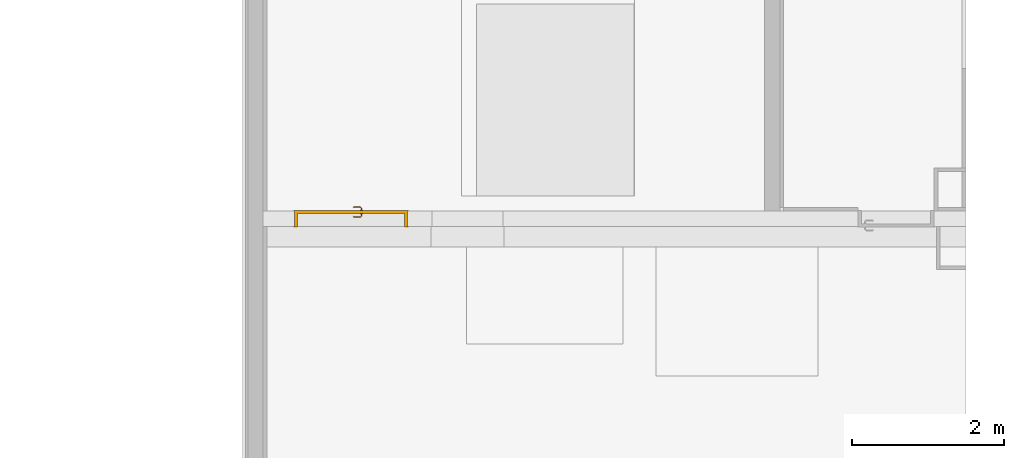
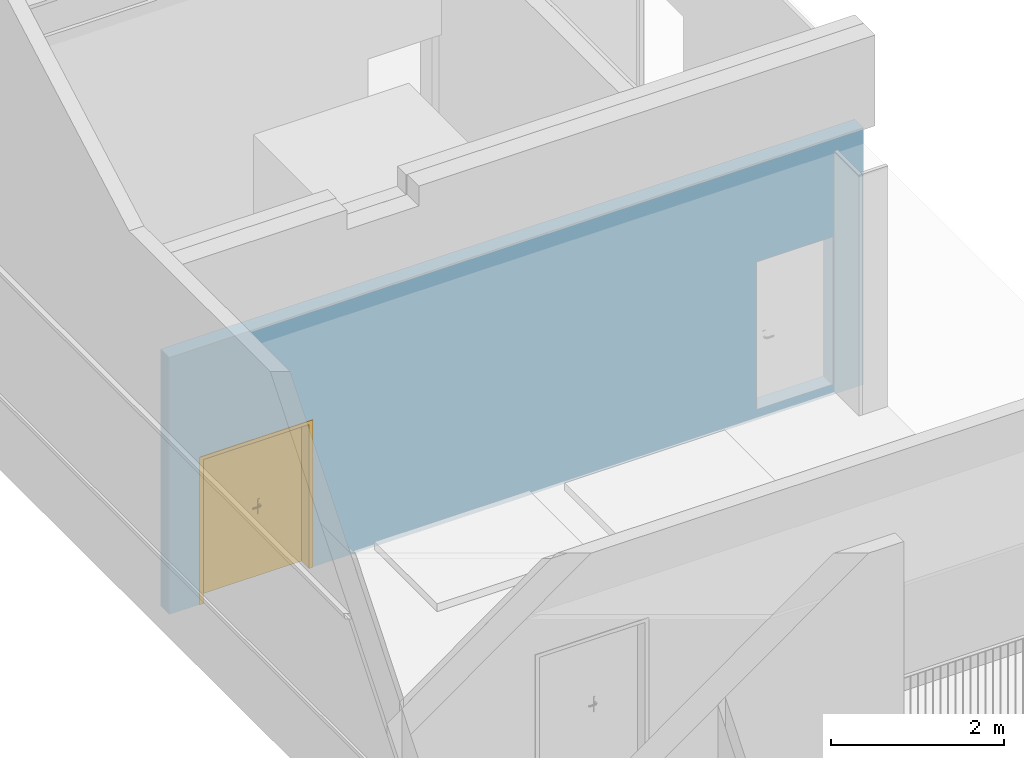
# One storey, part 27 of 44: 1 door, 2 openings, plus 1 element that does not belong to this part.
"""IFC2X3 building model written with IfcOpenShell, lengths in centimetres."""

from ifc_helpers import new_model, entity, si_unit, converted_unit, derived_unit, direction, frame, frame_2d, origin, place, context, subcontext, project, spatial, rectangle, extrude, faceted_brep, source, transform, mapped, material, material_list, layer, layer_set, layer_usage, type_object, type_shapes, element, fill, save


model = new_model("IFC2X3")

# Units and contexts
model_context = context("Model", 3, precision=0.001, world=origin(), true_north=direction((6.12303176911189e-17, 1.0)))
body_context = subcontext(model_context, "Body", "Model", "MODEL_VIEW")
ifc_project = project(units=[si_unit("LENGTHUNIT", "METRE", prefix="CENTI"), si_unit("AREAUNIT", "SQUARE_METRE"), si_unit("VOLUMEUNIT", "CUBIC_METRE"), converted_unit("PLANEANGLEUNIT", "DEGREE", entity("IfcRatioMeasure", 0.0174532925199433), si_unit("PLANEANGLEUNIT", "RADIAN"), dimensions=[0, 0, 0, 0, 0, 0, 0]), si_unit("MASSUNIT", "GRAM", prefix="KILO"), si_unit("TIMEUNIT", "SECOND"), si_unit("FREQUENCYUNIT", "HERTZ"), si_unit("THERMODYNAMICTEMPERATUREUNIT", "DEGREE_CELSIUS"), derived_unit("THERMALTRANSMITTANCEUNIT", [(si_unit("MASSUNIT", "GRAM", prefix="KILO"), 1), (si_unit("THERMODYNAMICTEMPERATUREUNIT", "KELVIN"), -1), (si_unit("TIMEUNIT", "SECOND"), -3)]), derived_unit("VOLUMETRICFLOWRATEUNIT", [(si_unit("LENGTHUNIT", "METRE"), 3), (si_unit("TIMEUNIT", "SECOND"), -1)]), si_unit("ELECTRICCURRENTUNIT", "AMPERE"), si_unit("ELECTRICVOLTAGEUNIT", "VOLT"), si_unit("POWERUNIT", "WATT"), si_unit("FORCEUNIT", "NEWTON", prefix="KILO"), si_unit("ILLUMINANCEUNIT", "LUX"), si_unit("LUMINOUSFLUXUNIT", "LUMEN"), si_unit("LUMINOUSINTENSITYUNIT", "CANDELA"), derived_unit("USERDEFINED", [(si_unit("MASSUNIT", "GRAM", prefix="KILO"), -1), (si_unit("LENGTHUNIT", "METRE"), -2), (si_unit("TIMEUNIT", "SECOND"), 3), (si_unit("LUMINOUSFLUXUNIT", "LUMEN"), 1)]), derived_unit("LINEARVELOCITYUNIT", [(si_unit("LENGTHUNIT", "METRE"), 1), (si_unit("TIMEUNIT", "SECOND"), -1)]), si_unit("PRESSUREUNIT", "PASCAL"), derived_unit("USERDEFINED", [(si_unit("LENGTHUNIT", "METRE"), -2), (si_unit("MASSUNIT", "GRAM", prefix="KILO"), 1), (si_unit("TIMEUNIT", "SECOND"), -2)])], contexts=[model_context])

# Site, building, storey
site_placement = place(None, frame((8.62739174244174, -249.285249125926, 0.0)))
site = spatial("IfcSite", under=ifc_project, at=site_placement, Name="Default", CompositionType="ELEMENT")
building_placement = place(site_placement, origin())
building = spatial("IfcBuilding", under=site, at=building_placement, CompositionType="ELEMENT")
storey_placement = place(building_placement, frame((0.0, 0.0, 343.0)))
storey = spatial("IfcBuildingStorey", under=building, at=storey_placement, Name="R+1", CompositionType="ELEMENT", Elevation=343.0)

# Wall, openings, door
ifc_material_1 = material(Name="Béton, coulé sur place, gris")
ifc_layer = layer(ifc_material_1, 20.0)
ifc_layer_set = layer_set([ifc_layer], Name="Mur de base:BET 20")
ifc_layer_usage = layer_usage(ifc_layer_set, "AXIS2", "NEGATIVE", 10.0)
wall_type = type_object("IfcWallType", Name="Mur de base:BET 20", PredefinedType="STANDARD", material=ifc_layer_set)
wall_placement = place(storey_placement, frame((3053.90482780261, 5584.9802081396, 0.0)))
wall = element("IfcWallStandardCase", 1, at=wall_placement, inside=storey, type_object=wall_type, material=ifc_layer_usage, Name="Mur de base:BET 20", ObjectType="Mur de base:BET 20", context=body_context, shape_type="SweptSolid", body=[
    extrude(rectangle(XDim=925.000000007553, YDim=20.0000000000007, at=frame_2d((462.500000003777, 4.35207425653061e-14), x_axis=(-1.0, 0.0))), origin(), (0.0, 0.0, 1.0), 362.0),
])
opening_1_placement = place(wall_placement, frame((40.9999881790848, -10.0, 0.0)))
opening_1 = element("IfcOpeningElement", 2, at=opening_1_placement, cuts=wall, Name="Tierce(R)_bois_mu:143 x 204 cm:1", ObjectType="Opening", context=body_context, shape_type="SweptSolid", body=[
    extrude(rectangle(XDim=206.999999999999, YDim=149.0, at=frame_2d((103.499999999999, 74.4999999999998), x_axis=(1.0, 0.0))), frame((0.0, 0.0, 0.0), z_axis=(0.0, 1.0, 0.0), x_axis=(0.0, 0.0, 1.0)), (0.0, 0.0, 1.0), 20.0),
])
opening_2_placement = place(wall_placement, frame((883.0, 10.0, 15.0)))
element("IfcOpeningElement", 3, at=opening_2_placement, cuts=wall, Name="Simple(R)_bois_mu:93 x 204 cm:1", ObjectType="Opening", context=body_context, shape_type="SweptSolid", body=[
    extrude(rectangle(XDim=207.499999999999, YDim=99.9999999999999, at=frame_2d((103.75, 50.0), x_axis=(1.0, 0.0))), frame((0.0, 0.0, 0.0), z_axis=(0.0, -1.0, 0.0), x_axis=(0.0, 0.0, 1.0)), (0.0, 0.0, 1.0), 20.0),
])
ifc_material_2 = material(Name="Aluminium-Dorma Metal-Anodized Silver")
ifc_material_3 = material(Name="Porte - Cadre")
ifc_material_4 = material(Name="Porte - Panneau")
ifc_material_list_1 = material_list([ifc_material_2, ifc_material_3, ifc_material_4])
ifc_material_list_2 = material_list([ifc_material_2, ifc_material_3, ifc_material_4])
door_style = type_object("IfcDoorStyle", Name="143 x 204 cm", ConstructionType="NOTDEFINED", OperationType="NOTDEFINED", ParameterTakesPrecedence=False, Sizeable=False, material=ifc_material_list_2)
shared_shape = source(origin(), body_context, "Body", "Brep", [
    faceted_brep([(60.2974701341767, 3.69999999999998, 100.778044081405), (59.8999999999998, 3.69999999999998, 100.699999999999), (59.8999999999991, 3.69999999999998, 99.2999999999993), (60.2974701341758, 3.69999999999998, 99.2219559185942), (60.7025298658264, 3.69999999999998, 99.2219559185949), (61.1000000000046, 3.69999999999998, 99.3000000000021), (61.100000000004, 3.69999999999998, 100.699999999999), (60.7025298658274, 3.69999999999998, 100.778044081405), (61.1000000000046, 5.94852045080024, 99.3000000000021), (61.1000000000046, 5.94852045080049, 100.699999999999), (60.7025298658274, 6.1131579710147, 100.778044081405), (62.0838906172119, 7.49451872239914, 100.778044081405), (61.916109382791, 7.89957845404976, 100.778044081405), (60.2974701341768, 6.2809392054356, 100.778044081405), (71.0684749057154, 6.84673156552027, 100.778044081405), (71.3548953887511, 7.13315204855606, 100.778044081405), (70.5884689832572, 7.89957845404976, 100.778044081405), (70.4206877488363, 7.49451872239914, 100.778044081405), (59.8999999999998, 6.44557672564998, 100.699999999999), (59.8999999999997, 6.44557672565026, 99.2999999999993), (60.2974701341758, 6.28093920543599, 99.2219559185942), (61.9161093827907, 7.8995784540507, 99.2219559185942), (62.0838906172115, 7.49451872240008, 99.2219559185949), (60.7025298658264, 6.11315797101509, 99.2219559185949), (71.3548953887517, 7.13315204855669, 99.2219559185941), (71.068474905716, 6.84673156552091, 99.2219559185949), (70.4206877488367, 7.49451872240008, 99.2219559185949), (70.5884689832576, 7.8995784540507, 99.2219559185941), (62.2485281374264, 7.09704858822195, 99.3000000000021), (62.2485281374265, 7.09704858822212, 100.699999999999), (61.7514718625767, 8.29704858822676, 100.699999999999), (61.7514718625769, 8.29704858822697, 99.2999999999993), (66.2522904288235, 7.09704858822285, 99.3000000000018), (70.2560502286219, 7.09704858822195, 99.3000000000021), (70.2560502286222, 7.09704858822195, 100.699999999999), (66.2522891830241, 7.09704858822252, 100.699999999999), (66.2522891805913, 7.71249275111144, 100.787811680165), (70.7531065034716, 8.29704858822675, 100.699999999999), (66.7600577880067, 8.29704858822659, 100.699999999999), (70.7531065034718, 8.29704858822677, 99.2999999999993), (65.7445206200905, 8.29704858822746, 99.2999999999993), (66.2522892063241, 7.71249274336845, 99.2121883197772), (70.7874210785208, 6.56567773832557, 99.3000000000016), (71.6359492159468, 7.41420587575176, 99.2999999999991), (71.6359492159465, 7.4142058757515, 100.699999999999), (70.7874210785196, 6.5656777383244, 100.699999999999)], [[[0, 1, 2, 3, 4, 5, 6, 7]], [[6, 5, 8, 9]], [[9, 10, 7, 6]], [[10, 11, 12, 13, 0, 7]], [[14, 15, 16, 17]], [[13, 18, 1, 0]], [[2, 1, 18, 19]], [[19, 20, 3, 2]], [[20, 21, 22, 23, 4, 3]], [[24, 25, 26, 27]], [[23, 8, 5, 4]], [[9, 8, 28, 29]], [[29, 11, 10, 9]], [[12, 30, 18, 13]], [[19, 18, 30, 31]], [[31, 21, 20, 19]], [[22, 28, 8, 23]], [[29, 28, 32, 33, 34, 35]], [[11, 35, 36]], [[16, 37, 38]], [[30, 12, 38]], [[38, 12, 36]], [[36, 35, 17]], [[17, 16, 36]], [[35, 11, 29]], [[34, 17, 35]], [[11, 36, 12]], [[38, 36, 16]], [[31, 30, 38, 37, 39, 40]], [[40, 41, 21]], [[41, 40, 27]], [[21, 31, 40]], [[39, 27, 40]], [[41, 32, 22]], [[22, 21, 41]], [[26, 32, 41]], [[28, 22, 32]], [[32, 26, 33]], [[26, 41, 27]], [[42, 25, 24, 43, 44, 15, 14, 45]], [[34, 33, 42, 45]], [[45, 14, 17, 34]], [[15, 44, 37, 16]], [[39, 37, 44, 43]], [[43, 24, 27, 39]], [[25, 42, 33, 26]]]),
    faceted_brep([(60.2974701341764, -1.30000000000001, 100.778044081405), (60.702529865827, -1.30000000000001, 100.778044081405), (61.1000000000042, -1.30000000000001, 100.699999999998), (61.1000000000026, -1.30000000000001, 99.3000000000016), (60.7025298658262, -1.30000000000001, 99.2219559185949), (60.2974701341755, -1.30000000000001, 99.2219559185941), (59.8999999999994, -1.30000000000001, 99.2999999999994), (59.8999999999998, -1.30000000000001, 100.699999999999), (59.8999999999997, -4.06509507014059, 100.699999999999), (60.2974701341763, -3.90045754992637, 100.778044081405), (61.9023585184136, -5.50534593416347, 100.778044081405), (62.0701397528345, -5.10028620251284, 100.778044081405), (60.702529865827, -3.73267631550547, 100.778044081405), (71.3521810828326, -4.73891952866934, 100.778044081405), (71.0657605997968, -4.4524990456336, 100.778044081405), (70.4179734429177, -5.10028620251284, 100.778044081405), (70.5857546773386, -5.50534593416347, 100.778044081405), (61.1000000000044, -3.56803879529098, 100.699999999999), (61.1000000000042, -3.56803879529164, 99.3000000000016), (60.7025298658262, -3.7326763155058, 99.2219559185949), (62.0701397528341, -5.10028620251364, 99.2219559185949), (61.9023585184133, -5.50534593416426, 99.2219559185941), (60.2974701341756, -3.9004575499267, 99.2219559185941), (71.0657605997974, -4.45249904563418, 99.2219559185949), (71.3521810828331, -4.73891952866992, 99.2219559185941), (70.5857546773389, -5.50534593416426, 99.2219559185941), (70.417973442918, -5.10028620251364, 99.2219559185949), (59.8999999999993, -4.06509507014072, 99.2999999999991), (61.7377209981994, -5.90281606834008, 100.699999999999), (62.234777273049, -4.70281606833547, 100.699999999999), (62.2347772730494, -4.70281606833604, 99.3000000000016), (61.7377209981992, -5.90281606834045, 99.2999999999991), (65.730769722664, -5.90281606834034, 100.699999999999), (66.2440566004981, -5.31828027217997, 100.787811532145), (70.7503921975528, -5.90281606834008, 100.699999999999), (66.2440565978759, -4.70281606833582, 100.699999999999), (70.2533359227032, -4.70281606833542, 100.699999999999), (70.2533359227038, -4.70281606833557, 99.3000000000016), (66.2440563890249, -4.70281606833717, 99.3000000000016), (66.2440565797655, -5.31828027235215, 99.2121884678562), (70.7503921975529, -5.90281606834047, 99.2999999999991), (66.7573433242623, -5.90281606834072, 99.2999999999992), (70.7847067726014, -4.1714452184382, 100.699999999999), (71.6332349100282, -5.01997335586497, 100.699999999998), (71.6332349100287, -5.01997335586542, 99.2999999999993), (70.7847067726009, -4.17144521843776, 99.3000000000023)], [[[0, 1, 2, 3, 4, 5, 6, 7]], [[8, 9, 0, 7]], [[9, 10, 11, 12, 1, 0]], [[13, 14, 15, 16]], [[12, 17, 2, 1]], [[3, 2, 17, 18]], [[18, 19, 4, 3]], [[19, 20, 21, 22, 5, 4]], [[23, 24, 25, 26]], [[22, 27, 6, 5]], [[7, 6, 27, 8]], [[28, 10, 9, 8]], [[11, 29, 17, 12]], [[18, 17, 29, 30]], [[30, 20, 19, 18]], [[21, 31, 27, 22]], [[8, 27, 31, 28]], [[32, 33, 10]], [[33, 32, 16]], [[10, 28, 32]], [[34, 16, 32]], [[33, 35, 11]], [[11, 10, 33]], [[15, 35, 33]], [[29, 11, 35]], [[35, 15, 36]], [[15, 33, 16]], [[30, 29, 35, 36, 37, 38]], [[20, 38, 39]], [[25, 40, 41]], [[31, 21, 41]], [[41, 21, 39]], [[39, 38, 26]], [[26, 25, 39]], [[38, 20, 30]], [[37, 26, 38]], [[20, 39, 21]], [[41, 39, 25]], [[28, 31, 41, 40, 34, 32]], [[42, 14, 13, 43, 44, 24, 23, 45]], [[43, 13, 16, 34]], [[14, 42, 36, 15]], [[37, 36, 42, 45]], [[45, 23, 26, 37]], [[24, 44, 40, 25]], [[34, 40, 44, 43]]]),
    faceted_brep([(61.5352761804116, 3.19999999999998, 86.6003983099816), (62.5000000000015, 3.19999999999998, 87.0), (62.5000000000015, 3.19999999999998, 108.0), (61.5352761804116, 3.19999999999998, 108.399601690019), (60.5000000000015, 3.19999999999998, 108.535898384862), (59.4647238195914, 3.19999999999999, 108.399601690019), (58.5000000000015, 3.19999999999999, 108.0), (58.5000000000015, 3.19999999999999, 87.0), (59.4647238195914, 3.19999999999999, 86.6003983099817), (60.5000000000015, 3.19999999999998, 86.4641016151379), (61.5352761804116, 3.69999999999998, 108.399601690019), (62.5000000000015, 3.69999999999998, 108.0), (62.5000000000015, 3.69999999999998, 87.0), (61.5352761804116, 3.69999999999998, 86.6003983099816), (60.5000000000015, 3.69999999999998, 86.4641016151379), (59.4647238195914, 3.69999999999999, 86.6003983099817), (58.5000000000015, 3.69999999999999, 87.0), (58.5000000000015, 3.69999999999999, 108.0), (59.4647238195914, 3.69999999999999, 108.399601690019), (60.5000000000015, 3.69999999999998, 108.535898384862)], [[[0, 1, 2, 3, 4, 5, 6, 7, 8, 9]], [[10, 11, 12, 13, 14, 15, 16, 17, 18, 19]], [[11, 10, 3, 2]], [[3, 10, 19, 4]], [[19, 18, 5, 4]], [[18, 17, 6, 5]], [[7, 6, 17, 16]], [[16, 15, 8, 7]], [[8, 15, 14, 9]], [[14, 13, 0, 9]], [[13, 12, 1, 0]], [[2, 1, 12, 11]]]),
    faceted_brep([(61.5352761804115, -1.30000000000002, 86.6003983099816), (62.5000000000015, -1.30000000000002, 87.0), (62.5000000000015, -1.30000000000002, 108.0), (61.5352761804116, -1.30000000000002, 108.399601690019), (60.5000000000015, -1.30000000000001, 108.535898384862), (59.4647238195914, -1.30000000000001, 108.399601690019), (58.5000000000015, -1.30000000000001, 108.0), (58.5000000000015, -1.30000000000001, 87.0), (59.4647238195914, -1.30000000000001, 86.6003983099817), (60.5000000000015, -1.30000000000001, 86.4641016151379), (61.5352761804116, -0.800000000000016, 108.399601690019), (62.5000000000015, -0.800000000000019, 108.0), (62.5000000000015, -0.800000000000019, 87.0), (61.5352761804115, -0.800000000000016, 86.6003983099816), (60.5000000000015, -0.800000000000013, 86.4641016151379), (59.4647238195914, -0.800000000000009, 86.6003983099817), (58.5000000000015, -0.800000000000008, 87.0), (58.5000000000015, -0.800000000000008, 108.0), (59.4647238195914, -0.800000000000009, 108.399601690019), (60.5000000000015, -0.800000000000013, 108.535898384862)], [[[0, 1, 2, 3, 4, 5, 6, 7, 8, 9]], [[10, 11, 12, 13, 14, 15, 16, 17, 18, 19]], [[16, 15, 8, 7]], [[8, 15, 14, 9]], [[14, 13, 0, 9]], [[13, 12, 1, 0]], [[2, 1, 12, 11]], [[11, 10, 3, 2]], [[3, 10, 19, 4]], [[19, 18, 5, 4]], [[18, 17, 6, 5]], [[7, 6, 17, 16]]]),
    faceted_brep([(149.0, 0.0, 0.0), (150.0, 0.0, 0.0), (150.0, -0.799999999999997, 0.0), (146.0, -0.799999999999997, 0.0), (146.0, 3.2, 0.0), (145.0, 3.2, 0.0), (145.0, 20.8000000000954, 0.0), (150.0, 20.8000000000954, 0.0), (150.0, 20.0, 0.0), (149.0, 20.0, 0.0), (149.0, 20.0, 207.0), (149.0, 0.0, 207.0), (150.0, 20.0, 208.0), (-1.0, 20.0, 208.0), (-1.0, 20.0, 0.0), (0.0, 20.0, 0.0), (0.0, 20.0, 207.0), (150.0, 20.8000000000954, 208.0), (145.0, 20.8000000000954, 203.0), (4.0, 20.8000000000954, 203.0), (4.0, 20.8000000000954, 0.0), (-1.0, 20.8000000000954, 0.0), (-1.0, 20.8000000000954, 208.0), (145.0, 3.2, 203.0), (146.0, 3.2, 204.0), (3.0, 3.2, 204.0), (3.0, 3.2, 0.0), (4.0, 3.2, 0.0), (4.0, 3.2, 203.0), (146.0, -0.799999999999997, 204.0), (150.0, -0.799999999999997, 208.0), (-1.0, -0.799999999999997, 208.0), (-1.0, -0.799999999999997, 0.0), (3.0, -0.799999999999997, 0.0), (3.0, -0.799999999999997, 204.0), (150.0, 0.0, 208.0), (0.0, 0.0, 207.0), (0.0, 0.0, 0.0), (-1.0, 0.0, 0.0), (-1.0, 0.0, 208.0)], [[[0, 1, 2, 3, 4, 5, 6, 7, 8, 9]], [[9, 10, 11, 0]], [[8, 12, 13, 14, 15, 16, 10, 9]], [[7, 17, 12, 8]], [[6, 18, 19, 20, 21, 22, 17, 7]], [[5, 23, 18, 6]], [[4, 24, 25, 26, 27, 28, 23, 5]], [[3, 29, 24, 4]], [[2, 30, 31, 32, 33, 34, 29, 3]], [[1, 35, 30, 2]], [[0, 11, 36, 37, 38, 39, 35, 1]], [[16, 15, 37, 36]], [[37, 15, 14, 21, 20, 27, 26, 33, 32, 38]], [[22, 21, 14, 13]], [[28, 27, 20, 19]], [[34, 33, 26, 25]], [[39, 38, 32, 31]], [[10, 16, 36, 11]], [[17, 22, 13, 12]], [[23, 28, 19, 18]], [[29, 34, 25, 24]], [[35, 39, 31, 30]]]),
    faceted_brep([(3.0, -0.799999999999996, 204.0), (3.0, -0.799999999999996, 0.0), (55.0, -0.799999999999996, 0.0), (55.0, -0.799999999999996, 204.0), (3.0, 3.2, 204.0), (55.0, 3.2, 204.0), (55.0, 3.2, 0.0), (3.0, 3.2, 0.0)], [[[0, 1, 2, 3]], [[4, 5, 6, 7]], [[3, 5, 4, 0]], [[2, 6, 5, 3]], [[1, 7, 6, 2]], [[0, 4, 7, 1]]]),
    faceted_brep([(146.0, -0.799999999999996, 0.0), (146.0, -0.799999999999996, 204.0), (55.0, -0.799999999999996, 204.0), (55.0, -0.799999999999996, 0.0), (146.0, 3.2, 0.0), (55.0, 3.2, 0.0), (55.0, 3.2, 204.0), (146.0, 3.2, 204.0)], [[[0, 1, 2, 3]], [[4, 5, 6, 7]], [[3, 5, 4, 0]], [[2, 6, 5, 3]], [[1, 7, 6, 2]], [[0, 4, 7, 1]]]),
])
type_shapes(door_style, [shared_shape])
door_placement = place(opening_1_placement, frame((149.0, 20.0, 0.0), z_axis=(0.0, 0.0, 1.0), x_axis=(-1.0, 0.0, 0.0)))
door = element("IfcDoor", 4, at=door_placement, inside=storey, type_object=door_style, material=ifc_material_list_1, Name="Tierce(R)_bois_mu:143 x 204 cm", ObjectType="143 x 204 cm", OverallHeight=206.999999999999, OverallWidth=149.0, context=body_context, shape_type="MappedRepresentation", body=[
    mapped(shared_shape, transform((0.0, 0.0, 0.0), scale=1.0)),
])
fill(opening_1, door)

save(model, "model.ifc")
